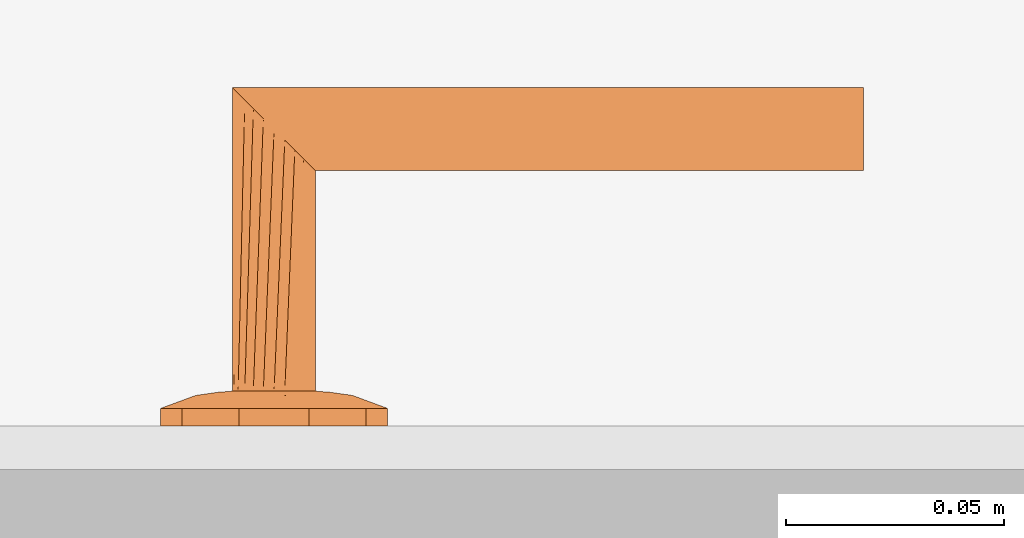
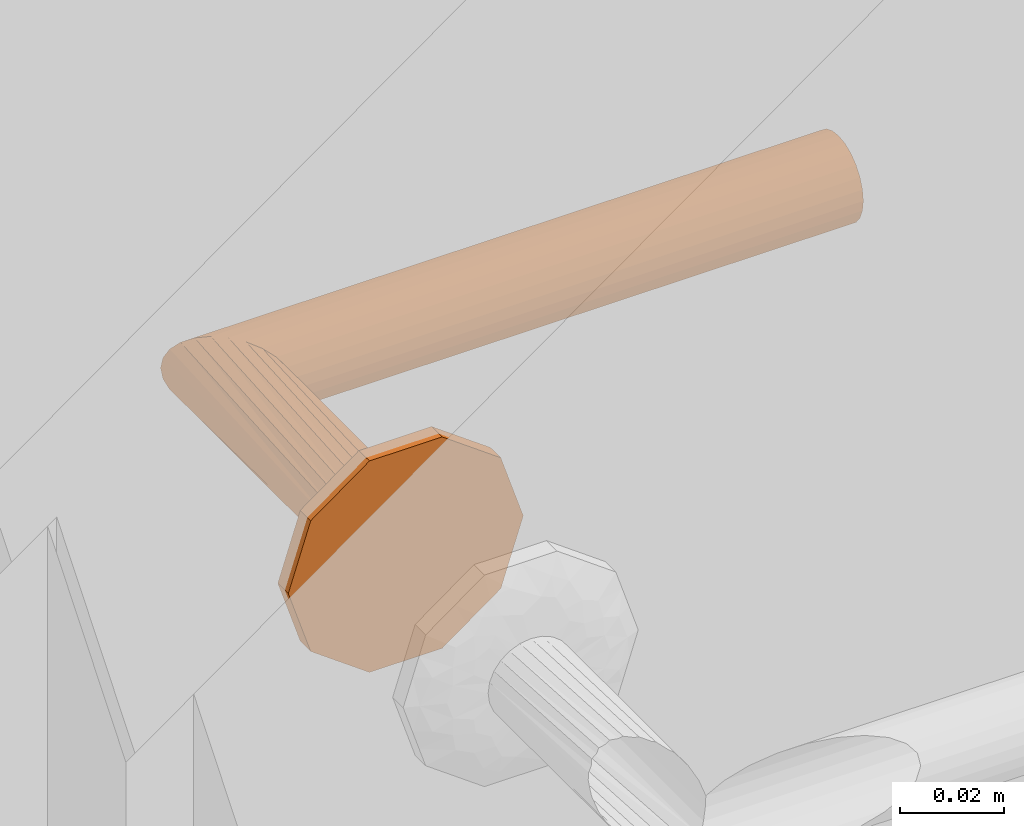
# One storey, part 28 of 55: 1 proxy.
"""IFC2X3 building model written with IfcOpenShell, lengths in millimetres."""

from ifc_helpers import new_model, entity, si_unit, converted_unit, direction, frame, origin, place, context, subcontext, project, spatial, faceted_brep, source, transform, mapped, material, type_object, type_shapes, element, save


model = new_model("IFC2X3")

# Units and contexts
model_context = context("Model", 3, precision=0.01, world=origin(), true_north=direction((6.123233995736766e-17, 1.0)))
plan_context = context("Plan", 3, precision=0.01, world=origin(), true_north=direction((6.123233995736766e-17, 1.0)))
body_context = subcontext(model_context, "Body", "Model", "MODEL_VIEW")
ifc_project = project(units=[si_unit("LENGTHUNIT", "METRE", prefix="MILLI"), converted_unit("PLANEANGLEUNIT", "DEGREE", entity("IfcPlaneAngleMeasure", 0.017453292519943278), si_unit("PLANEANGLEUNIT", "RADIAN"), dimensions=[0, 0, 0, 0, 0, 0, 0]), si_unit("AREAUNIT", "SQUARE_METRE")], contexts=[model_context, plan_context])

# Site, building, storey, space
site_placement = place(None, origin())
site = spatial("IfcSite", under=ifc_project, at=site_placement, Name="Default", CompositionType="ELEMENT")
building_placement = place(site_placement, origin())
building = spatial("IfcBuilding", under=site, at=building_placement, CompositionType="ELEMENT")
storey_placement = place(building_placement, origin())
storey = spatial("IfcBuildingStorey", under=building, at=storey_placement, Name="1K", CompositionType="ELEMENT", Elevation=0.0)
space_placement = place(storey_placement, origin())
space = spatial("IfcSpace", under=storey, at=space_placement, Name="1-0.5", CompositionType="ELEMENT", InteriorOrExteriorSpace="INTERNAL")

# Proxy
ifc_material = material(Name="<Unnamed>")
building_element_proxy_type = type_object("IfcBuildingElementProxyType", Name="Door-handle_Lever_ABLOY_INOXI_3-19ss-002_RT:Default", PredefinedType="NOTDEFINED", material=ifc_material)
shared_shape = source(origin(), body_context, "Body", "Brep", [
    faceted_brep([(0.0, 0.0, 0.0), (21.034441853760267, -15.282416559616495, 0.0), (14.534441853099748, -20.00494299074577, 0.0), (8.034441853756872, -24.72746942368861, 0.0), (0.0, -24.72746942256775, 0.0), (23.51722092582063, -7.6412082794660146, 0.0), (26.0, 0.0, 0.0), (-8.034441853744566, -24.727469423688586, 0.0), (-14.534441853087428, -20.00494299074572, 0.0), (-21.03444185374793, -15.282416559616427, 0.0), (-23.517220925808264, -7.641208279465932, 0.0), (-26.0, 0.0, 0.0), (-23.517220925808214, 7.641208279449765, 0.0), (23.517220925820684, 7.641208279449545, 0.0), (21.034441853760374, 15.282416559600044, 0.0), (14.53444185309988, 20.00494299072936, 0.0), (8.034441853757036, 24.72746942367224, 0.0), (-21.034441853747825, 15.282416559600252, 0.0), (-14.53444185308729, 20.004942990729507, 0.0), (-8.0344418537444, 24.72746942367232, 0.0), (0.0, 24.72746942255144, 0.0), (0.0, 0.0, 8.0), (4.7500000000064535, -8.227241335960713, 8.0), (5.937500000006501, -6.170431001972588, 8.0), (7.125000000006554, -4.113620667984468, 8.0), (8.312500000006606, -2.0568103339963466, 8.0), (9.500000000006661, 0.0, 8.0), (8.312500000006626, 2.056810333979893, 8.0), (2.3750000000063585, -8.227241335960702, 8.0), (0.0, -8.227241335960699, 8.0), (-2.3749999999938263, -8.227241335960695, 8.0), (-4.749999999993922, -8.227241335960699, 8.0), (-5.937499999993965, -6.170431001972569, 8.0), (-7.124999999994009, -4.113620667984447, 8.0), (-8.312499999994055, -2.056810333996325, 8.0), (-9.499999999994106, 0.0, 8.0), (7.125000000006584, 4.113620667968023, 8.0), (5.937500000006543, 6.170431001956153, 8.0), (4.750000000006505, 8.227241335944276, 8.0), (2.3750000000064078, 8.22724133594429, 8.0), (-8.31249999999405, 2.0568103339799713, 8.0), (-7.12499999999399, 4.113620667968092, 8.0), (-5.9374999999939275, 6.170431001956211, 8.0), (-4.74999999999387, 8.227241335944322, 8.0), (0.0, 8.227241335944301, 8.0), (-2.374999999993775, 8.227241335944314, 8.0), (-22.488765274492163, -10.806469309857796, 4.030771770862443), (-16.663919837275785, -7.932665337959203, 6.877259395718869), (-20.643071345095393, -6.292822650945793, 5.929480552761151), (-12.50457926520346, -5.179566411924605, 7.774932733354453), (-16.764060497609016, -3.820257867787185, 7.1747985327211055), (-9.071726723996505, -10.311606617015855, 7.7520782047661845), (-11.963426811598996, -8.625290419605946, 7.618343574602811), (-11.979136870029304, -13.678312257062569, 6.945778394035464), (5.7585542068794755, -20.96753300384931, 5.871476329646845), (0.0, -24.72746942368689, 4.030771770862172), (8.03444185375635, -24.727469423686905, 4.030771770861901), (16.66391982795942, -7.932665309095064, 6.877259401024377), (22.488765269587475, -10.806469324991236, 4.03077177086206), (20.64307133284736, -6.29282258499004, 5.929480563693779), (14.534441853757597, -20.004942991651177, 4.030771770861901), (9.499431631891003, -18.64368355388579, 6.154325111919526), (-15.783149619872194, -11.991003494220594, 6.50080018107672), (-21.034441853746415, -15.282416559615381, 4.030771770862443), (-14.53444185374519, -20.00494299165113, 4.030771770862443), (-23.012042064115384, 0.0, 5.135401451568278), (-23.943088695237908, -6.330522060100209, 4.030771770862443), (11.96342678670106, -8.62529049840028, 7.618343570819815), (12.504579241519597, -5.179566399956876, 7.774932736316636), (16.764060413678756, -3.8202578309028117, 7.17479855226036), (15.783149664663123, -11.991003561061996, 6.50080015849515), (17.985351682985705, 0.0, 6.993737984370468), (23.012042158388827, 0.0, 5.135401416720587), (8.661516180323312, -10.478936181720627, 7.768126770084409), (-8.03444185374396, -24.727469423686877, 4.030771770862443), (-3.3573143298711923, -21.197247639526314, 5.971427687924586), (-9.941915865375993, -17.061976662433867, 6.522757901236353), (-5.973257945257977, -16.430139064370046, 7.110979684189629), (-7.711266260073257, -12.760344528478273, 7.594456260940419), (11.979136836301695, -13.678312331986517, 6.945778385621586), (7.511307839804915, -13.358932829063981, 7.529187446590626), (5.953298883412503, -16.50608604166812, 7.096344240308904), (-1.5654593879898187, -15.307443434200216, 7.519134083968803), (-7.784980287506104, -20.476295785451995, 5.812837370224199), (2.8135289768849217, -17.76392260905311, 6.993737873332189), (-17.98535168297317, 0.0, 6.993737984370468), (-26.0, 0.0, 4.030771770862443), (-23.51722092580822, -7.641208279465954, 4.030771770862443), (23.943088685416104, -6.33052209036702, 4.030771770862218), (24.308823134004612, -5.204907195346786, 4.030771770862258), (26.0, 0.0, 4.030771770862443), (21.03444185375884, -15.282416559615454, 4.030771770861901), (22.617646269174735, -10.40981439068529, 4.030771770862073), (22.488765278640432, 10.806469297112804, 4.030771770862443), (16.66391984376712, 7.932665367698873, 6.877259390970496), (20.643071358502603, 6.292822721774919, 5.929480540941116), (12.504579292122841, 5.179566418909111, 7.774932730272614), (16.764060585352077, 3.8202579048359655, 7.174798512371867), (9.07172672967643, 10.31160659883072, 7.752078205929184), (11.963426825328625, 8.62529034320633, 7.618343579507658), (11.979136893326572, 13.67831220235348, 6.9457784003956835), (-5.758554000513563, 20.96753314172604, 5.8714763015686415), (0.0, 24.72746942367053, 4.030771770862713), (-8.03444185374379, 24.72746942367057, 4.030771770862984), (-16.663919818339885, 7.932665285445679, 6.877259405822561), (-22.48876526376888, 10.806469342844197, 4.030771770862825), (-20.643071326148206, 6.2928225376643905, 5.929480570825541), (-14.534441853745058, 20.004942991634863, 4.030771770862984), (-9.499431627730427, 18.643683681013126, 6.154325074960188), (15.783149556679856, 11.991003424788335, 6.5008002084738), (21.03444185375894, 15.282416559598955, 4.030771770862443), (14.534441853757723, 20.004942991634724, 4.030771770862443), (23.943088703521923, 6.330522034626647, 4.030771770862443), (-11.96342675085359, 8.625290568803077, 7.618343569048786), (-12.504579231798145, 5.179566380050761, 7.77493273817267), (-16.764060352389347, 3.820257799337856, 7.174798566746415), (-15.78314967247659, 11.991003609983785, 6.500800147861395), (-8.661516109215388, 10.478936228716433, 7.768126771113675), (8.034441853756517, 24.727469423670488, 4.030771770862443), (3.3573144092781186, 21.197247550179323, 5.971427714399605), (9.941915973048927, 17.061976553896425, 6.522757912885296), (5.9732581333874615, 16.430139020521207, 7.110979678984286), (7.711266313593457, 12.760344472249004, 7.5944562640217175), (-11.979136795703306, 13.678312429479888, 6.945778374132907), (-7.511307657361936, 13.358932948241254, 7.5291874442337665), (-5.9532988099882, 16.50608628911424, 7.096344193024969), (1.5654596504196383, 15.3074431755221, 7.519134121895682), (7.784980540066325, 20.476295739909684, 5.812837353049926), (-2.81352881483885, 17.76392263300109, 6.993737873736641), (23.51722092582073, 7.6412082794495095, 4.030771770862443), (-23.94308867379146, 6.330522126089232, 4.030771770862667), (-24.308823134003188, 5.20490719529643, 4.030771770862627), (-21.034441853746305, 15.282416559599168, 4.030771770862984), (-22.617646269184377, 10.409814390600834, 4.0307717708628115)], [[[0, 1, 2]], [[0, 2, 3]], [[0, 3, 4]], [[0, 5, 1]], [[0, 6, 5]], [[0, 4, 7]], [[0, 7, 8]], [[0, 8, 9]], [[0, 9, 10]], [[0, 10, 11]], [[0, 11, 12]], [[0, 13, 6]], [[0, 14, 13]], [[0, 15, 14]], [[0, 16, 15]], [[0, 12, 17]], [[0, 17, 18]], [[0, 18, 19]], [[0, 19, 20]], [[0, 20, 16]], [[21, 22, 23]], [[21, 23, 24]], [[21, 24, 25]], [[21, 25, 26]], [[21, 26, 27]], [[21, 28, 22]], [[21, 29, 28]], [[21, 30, 29]], [[21, 31, 30]], [[21, 32, 31]], [[21, 33, 32]], [[21, 34, 33]], [[21, 35, 34]], [[21, 27, 36]], [[21, 36, 37]], [[21, 37, 38]], [[21, 38, 39]], [[21, 40, 35]], [[21, 41, 40]], [[21, 42, 41]], [[21, 43, 42]], [[21, 39, 44]], [[21, 44, 45]], [[21, 45, 43]], [[46, 47, 48]], [[47, 49, 50]], [[49, 33, 34]], [[51, 52, 53]], [[49, 52, 33]], [[48, 47, 50]], [[54, 55, 56]], [[57, 58, 59]], [[56, 60, 61]], [[62, 63, 64]], [[65, 66, 48]], [[67, 57, 68]], [[68, 69, 25]], [[57, 67, 70]], [[69, 26, 25]], [[62, 53, 52]], [[71, 69, 72]], [[67, 23, 73]], [[74, 55, 75]], [[76, 77, 78]], [[79, 60, 70]], [[69, 59, 72]], [[80, 81, 61]], [[77, 30, 78]], [[82, 30, 77]], [[28, 80, 22]], [[77, 83, 75]], [[75, 82, 77]], [[55, 84, 75]], [[85, 50, 35]], [[24, 68, 25]], [[82, 84, 29]], [[84, 82, 75]], [[31, 78, 30]], [[82, 29, 30]], [[34, 35, 50]], [[52, 49, 47]], [[62, 52, 47]], [[34, 50, 49]], [[53, 78, 51]], [[32, 33, 52]], [[85, 65, 50]], [[66, 65, 86]], [[67, 68, 24]], [[77, 76, 83]], [[65, 48, 50]], [[63, 62, 46]], [[48, 66, 87, 46]], [[62, 47, 46]], [[69, 68, 57]], [[80, 73, 22]], [[70, 67, 79]], [[67, 24, 23]], [[72, 88, 89, 90]], [[69, 71, 26]], [[59, 69, 57]], [[61, 60, 79]], [[62, 64, 53]], [[91, 58, 70]], [[72, 59, 88]], [[57, 70, 58]], [[59, 58, 92]], [[80, 61, 79]], [[91, 70, 60]], [[61, 81, 54]], [[73, 80, 79]], [[28, 84, 81]], [[67, 73, 79]], [[29, 84, 28]], [[22, 73, 23]], [[51, 31, 32]], [[76, 78, 53]], [[53, 64, 76]], [[83, 64, 74]], [[64, 83, 76]], [[75, 83, 74]], [[31, 51, 78]], [[52, 51, 32]], [[28, 81, 80]], [[54, 81, 84]], [[55, 54, 84]], [[61, 54, 56]], [[93, 94, 95]], [[94, 96, 97]], [[96, 36, 27]], [[98, 99, 100]], [[96, 99, 36]], [[95, 94, 97]], [[101, 102, 103]], [[104, 105, 106]], [[103, 107, 108]], [[109, 110, 111]], [[72, 112, 95]], [[113, 104, 114]], [[114, 115, 40]], [[104, 113, 116]], [[115, 35, 40]], [[109, 100, 99]], [[85, 115, 65]], [[113, 42, 117]], [[118, 102, 119]], [[120, 121, 122]], [[123, 107, 116]], [[115, 106, 65]], [[124, 125, 108]], [[121, 39, 122]], [[126, 39, 121]], [[45, 124, 43]], [[121, 127, 119]], [[119, 126, 121]], [[102, 128, 119]], [[71, 97, 26]], [[41, 114, 40]], [[126, 128, 44]], [[128, 126, 119]], [[38, 122, 39]], [[126, 44, 39]], [[27, 26, 97]], [[99, 96, 94]], [[109, 99, 94]], [[27, 97, 96]], [[100, 122, 98]], [[37, 36, 99]], [[71, 72, 97]], [[112, 72, 90]], [[113, 114, 41]], [[121, 120, 127]], [[72, 95, 97]], [[110, 109, 93]], [[95, 112, 129, 93]], [[109, 94, 93]], [[115, 114, 104]], [[124, 117, 43]], [[116, 113, 123]], [[113, 41, 42]], [[65, 130, 131, 86]], [[115, 85, 35]], [[106, 115, 104]], [[108, 107, 123]], [[109, 111, 100]], [[132, 105, 116]], [[65, 106, 130]], [[104, 116, 105]], [[106, 105, 133]], [[124, 108, 123]], [[132, 116, 107]], [[108, 125, 101]], [[117, 124, 123]], [[45, 128, 125]], [[113, 117, 123]], [[44, 128, 45]], [[43, 117, 42]], [[98, 38, 37]], [[120, 122, 100]], [[100, 111, 120]], [[127, 111, 118]], [[111, 127, 120]], [[119, 127, 118]], [[38, 98, 122]], [[99, 98, 37]], [[45, 125, 124]], [[101, 125, 128]], [[102, 101, 128]], [[108, 101, 103]], [[7, 74, 64, 63, 9, 8]], [[10, 9, 63, 46, 87, 66, 86, 11]], [[6, 90, 89, 88, 92, 1, 5]], [[1, 58, 91]], [[74, 7, 4, 3, 56, 55]], [[60, 56, 3, 2, 1, 91]], [[1, 92, 58]], [[14, 110, 93, 129, 112, 90, 6, 13]], [[111, 110, 14, 15, 16, 118]], [[11, 86, 131, 130, 133, 17, 12]], [[17, 105, 132]], [[118, 16, 20, 19, 103, 102]], [[107, 103, 19, 18, 17, 132]], [[17, 133, 105]], [[59, 92, 88]], [[106, 133, 130]]]),
    faceted_brep([(4.7499999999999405, -8.22724133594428, 8.0), (2.4587809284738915, -9.176295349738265, 8.0), (0.0, -9.499999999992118, 8.0), (-2.4587809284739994, -9.176295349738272, 8.0), (-4.7500000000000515, -8.227241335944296, 8.0), (-6.717514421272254, -6.717514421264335, 8.0), (-8.227241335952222, -4.74999999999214, 8.0), (-9.176295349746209, -2.4587809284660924, 8.0), (-9.500000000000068, 0.0, 8.0), (-9.176295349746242, 2.458780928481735, 8.0), (-8.227241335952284, 4.750000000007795, 8.0), (-6.717514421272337, 6.717514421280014, 8.0), (-4.750000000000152, 8.227241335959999, 8.0), (-2.4587809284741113, 9.176295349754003, 8.0), (0.0, 9.500000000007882, 8.0), (2.4587809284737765, 9.176295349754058, 8.0), (4.7499999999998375, 8.227241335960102, 8.0), (6.717514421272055, 6.717514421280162, 8.0), (8.22724133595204, 4.75000000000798, 8.0), (9.17629534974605, 2.458780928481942, 8.0), (9.499999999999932, 0.0, 8.0), (9.17629534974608, -2.458780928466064, 8.0), (8.227241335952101, -4.749999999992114, 8.0), (6.717514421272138, -6.7175144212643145, 8.0), (-8.227241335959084, 4.7499999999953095, 59.772758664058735), (-6.717514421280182, 6.7175144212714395, 61.282485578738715), (-9.176295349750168, 2.458780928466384, 58.82370465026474), (-4.750000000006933, 8.227241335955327, 63.25000000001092), (-2.4587809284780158, 9.176295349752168, 65.54121907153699), (-9.500000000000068, 0.0, 58.50000000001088), (0.0, 9.50000000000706, 68.0), (4.750000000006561, 8.227241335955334, 72.75000000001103), (2.4587809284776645, 9.17629534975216, 70.45878092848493), (6.717514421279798, 6.7175144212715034, 74.71751442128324), (8.22724133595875, 4.749999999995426, 76.22724133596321), (9.17629534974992, 2.458780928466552, 77.17629534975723), (9.499999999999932, 0.0, 77.50000000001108), (9.176295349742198, -2.4587809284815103, 77.1762953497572), (8.227241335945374, -4.750000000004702, 76.22724133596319), (6.7175144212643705, -6.717514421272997, 74.7175144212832), (4.749999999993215, -8.227241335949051, 72.75000000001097), (2.4587809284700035, -9.17629534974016, 70.45878092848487), (0.0, -9.49999999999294, 68.0), (-2.4587809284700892, -9.176295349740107, 65.54121907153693), (-4.749999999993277, -8.227241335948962, 63.250000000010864), (-6.717514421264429, -6.717514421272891, 61.282485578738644), (-9.176295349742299, -2.458780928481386, 58.8237046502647), (-8.227241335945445, -4.750000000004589, 59.77275866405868), (-135.0, -9.176295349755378, 70.4587809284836), (-135.0, -8.227241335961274, 72.75000000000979), (-135.0, -6.717514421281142, 74.71751442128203), (-135.0, -4.750000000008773, 76.22724133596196), (-135.0, -2.4587809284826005, 77.17629534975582), (-135.0, 0.0, 77.5000000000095), (-135.0, 2.4587809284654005, 77.17629534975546), (-135.0, 4.749999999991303, 76.22724133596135), (-135.0, 6.717514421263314, 74.71751442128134), (-135.0, 8.227241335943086, 72.75000000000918), (-135.0, 9.17629534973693, 70.45878092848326), (-135.0, 9.499999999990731, 68.0), (-135.0, 9.17629534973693, 65.54121907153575), (-135.0, 8.227241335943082, 63.250000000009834), (-135.0, 6.717514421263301, 61.28248557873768), (-135.0, 4.749999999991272, 59.772758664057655), (-135.0, 2.458780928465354, 58.823704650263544), (-135.0, 0.0, 58.50000000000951), (-135.0, -2.458780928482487, 58.82370465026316), (-135.0, -4.750000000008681, 59.772758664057), (-135.0, -6.7175144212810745, 61.28248557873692), (-135.0, -8.227241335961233, 63.25000000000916), (-135.0, -9.176295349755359, 65.54121907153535), (-135.0, -9.500000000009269, 68.0)], [[[0, 1, 2, 3, 4, 5, 6, 7, 8, 9, 10, 11, 12, 13, 14, 15, 16, 17, 18, 19, 20, 21, 22, 23]], [[24, 25, 11, 10]], [[26, 24, 10, 9]], [[14, 27, 28]], [[13, 27, 14]], [[25, 27, 13]], [[29, 26, 9, 8]], [[12, 11, 25]], [[25, 13, 12]], [[28, 30, 15]], [[31, 17, 32]], [[33, 18, 31]], [[19, 34, 35]], [[33, 34, 19]], [[20, 19, 35, 36]], [[16, 15, 30]], [[14, 28, 15]], [[19, 18, 33]], [[17, 31, 18]], [[17, 16, 32]], [[30, 32, 16]], [[20, 36, 37, 21]], [[38, 21, 37]], [[22, 39, 40]], [[38, 39, 21]], [[23, 40, 41]], [[39, 22, 21]], [[1, 42, 43]], [[42, 1, 0]], [[23, 41, 0]], [[23, 22, 40]], [[41, 42, 0]], [[44, 45, 3]], [[43, 44, 2]], [[46, 29, 8, 7]], [[47, 46, 7, 6]], [[45, 47, 6, 5]], [[45, 4, 3]], [[3, 2, 44]], [[5, 4, 45]], [[43, 2, 1]], [[48, 49, 50, 51, 52, 53, 54, 55, 56, 57, 58, 59, 60, 61, 62, 63, 64, 65, 66, 67, 68, 69, 70, 71]], [[64, 63, 24, 26]], [[65, 64, 26, 29]], [[61, 60, 28, 27]], [[62, 61, 27, 25]], [[63, 62, 25, 24]], [[59, 30, 28, 60]], [[57, 56, 33, 31]], [[58, 57, 31, 32]], [[54, 53, 36, 35]], [[55, 54, 35, 34]], [[56, 55, 34, 33]], [[32, 30, 59, 58]], [[52, 51, 38, 37]], [[53, 52, 37, 36]], [[49, 48, 41, 40]], [[50, 49, 40, 39]], [[51, 50, 39, 38]], [[42, 41, 48, 71]], [[69, 68, 45, 44]], [[70, 69, 44, 43]], [[66, 65, 29, 46]], [[67, 66, 46, 47]], [[68, 67, 47, 45]], [[42, 71, 70, 43]]]),
])
type_shapes(building_element_proxy_type, [shared_shape])
proxy_placement = place(space_placement, frame((9754.995060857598, 3109.9999594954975, 1000.0), z_axis=(0.0, 1.0, 0.0), x_axis=(-1.0, 0.0, 0.0)))
element("IfcBuildingElementProxy", 1, at=proxy_placement, inside=space, type_object=building_element_proxy_type, material=ifc_material, Name="Door-handle_Lever_ABLOY_INOXI_3-19ss-002_RT:Default", ObjectType="Door-handle_Lever_ABLOY_INOXI_3-19ss-002_RT:Default", context=body_context, shape_type="MappedRepresentation", body=[
    mapped(shared_shape, transform((0.0, 0.0, 0.0), scale=1.0)),
])

save(model, "model.ifc")
